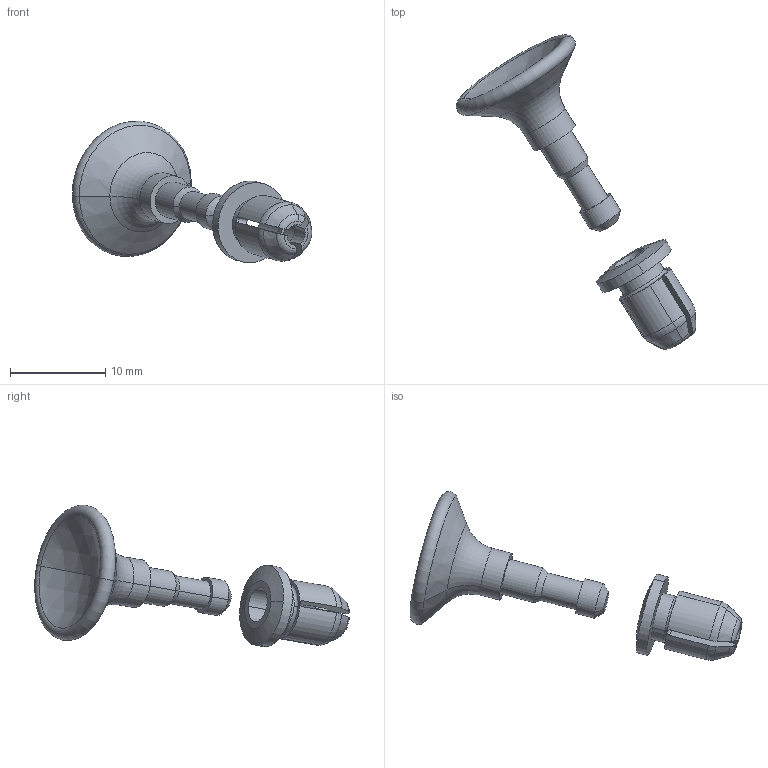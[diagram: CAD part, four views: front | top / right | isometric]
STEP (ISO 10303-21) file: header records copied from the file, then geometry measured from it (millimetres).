
FILE_DESCRIPTION (( 'STEP AP214' ), '1' );
FILE_NAME ('Southco Nylatch 2-piece (easy grip).STEP', '2021-02-20T20:12:30', ( '' ), ( '' ), 'SwSTEP 2.0', 'SolidWorks 2018', '' );
FILE_SCHEMA (( 'AUTOMOTIVE_DESIGN' ));
Length unit declared in the file: millimetre
Products named in the file (3): Southco-NY-4G-42-10; Southco Nylatch 2-piece (easy grip); Southco-NY-4P-42-1-51
Assembly tree (2 placements, depth 2):
  Southco Nylatch 2-piece (easy grip)
    Southco-NY-4G-42-10
    Southco-NY-4P-42-1-51
Bounding box: 25.18 x 33.1 x 14.89 mm (x, y, z)
Volume: 734.2 mm3; surface area: 1026.2 mm2
Topology: 2 solids, 2 shells, 80 faces, 200 edges, 127 vertices
Faces by surface type: cylinder 23, cone 19, torus 18, plane 18, sphere 2
Entity records: 2941 total; most frequent: CARTESIAN_POINT 675, DIRECTION 415, ORIENTED_EDGE 400, EDGE_CURVE 200, AXIS2_PLACEMENT_3D 176, VERTEX_POINT 127, CIRCLE 91, EDGE_LOOP 85
